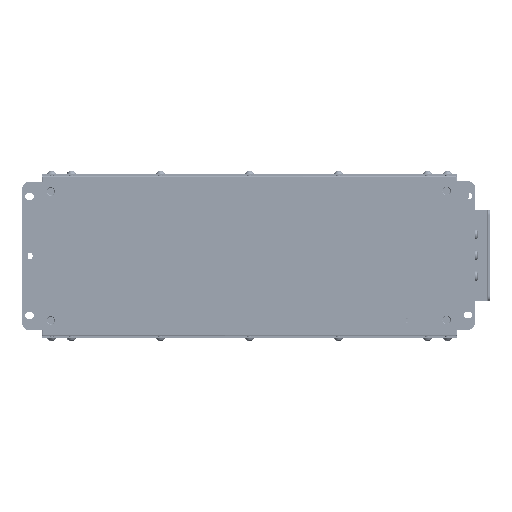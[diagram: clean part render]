
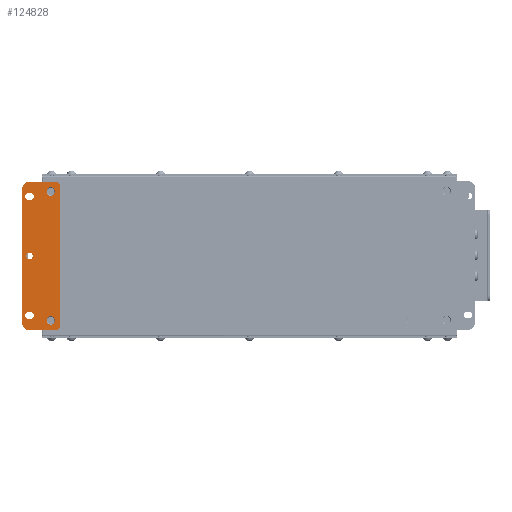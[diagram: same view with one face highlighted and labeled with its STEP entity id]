
A CAD part, front view. The second image highlights one B-rep face of the part: STEP entity #124828.
In plain terms, the highlighted planar face has unit normal (0, -1, 0).
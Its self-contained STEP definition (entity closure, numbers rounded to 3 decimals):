
#4513=FACE_BOUND('',#40737,.T.);
#4514=FACE_BOUND('',#40738,.T.);
#4515=FACE_BOUND('',#40739,.T.);
#4516=FACE_BOUND('',#40740,.T.);
#4517=FACE_BOUND('',#40741,.T.);
#5615=PLANE('',#132094);
#9912=LINE('',#174143,#21327);
#9913=LINE('',#174147,#21328);
#9914=LINE('',#174151,#21329);
#9915=LINE('',#174154,#21330);
#9916=LINE('',#174161,#21331);
#9917=LINE('',#174165,#21332);
#9918=LINE('',#174169,#21333);
#9919=LINE('',#174173,#21334);
#21327=VECTOR('',#142916,10.);
#21328=VECTOR('',#142919,10.);
#21329=VECTOR('',#142922,10.);
#21330=VECTOR('',#142925,10.);
#21331=VECTOR('',#142930,10.);
#21332=VECTOR('',#142933,10.);
#21333=VECTOR('',#142936,10.);
#21334=VECTOR('',#142939,10.);
#33920=FACE_OUTER_BOUND('',#40736,.T.);
#40736=EDGE_LOOP('',(#83385,#83386,#83387,#83388,#83389,#83390,#83391,#83392));
#40737=EDGE_LOOP('',(#83393));
#40738=EDGE_LOOP('',(#83394));
#40739=EDGE_LOOP('',(#83395,#83396,#83397,#83398));
#40740=EDGE_LOOP('',(#83399,#83400,#83401,#83402));
#40741=EDGE_LOOP('',(#83403));
#48525=CIRCLE('',#132093,4.25);
#48526=CIRCLE('',#132095,8.);
#48527=CIRCLE('',#132096,8.);
#48528=CIRCLE('',#132097,4.);
#48529=CIRCLE('',#132098,4.);
#48530=CIRCLE('',#132099,4.25);
#48531=CIRCLE('',#132100,3.3);
#48532=CIRCLE('',#132101,3.3);
#48533=CIRCLE('',#132102,3.3);
#48534=CIRCLE('',#132103,3.3);
#48535=CIRCLE('',#132104,3.3);
#52396=VERTEX_POINT('',#174135);
#52397=VERTEX_POINT('',#174139);
#52398=VERTEX_POINT('',#174140);
#52399=VERTEX_POINT('',#174142);
#52400=VERTEX_POINT('',#174144);
#52401=VERTEX_POINT('',#174146);
#52402=VERTEX_POINT('',#174148);
#52403=VERTEX_POINT('',#174150);
#52404=VERTEX_POINT('',#174152);
#52405=VERTEX_POINT('',#174155);
#52406=VERTEX_POINT('',#174157);
#52407=VERTEX_POINT('',#174159);
#52408=VERTEX_POINT('',#174160);
#52409=VERTEX_POINT('',#174162);
#52410=VERTEX_POINT('',#174164);
#52411=VERTEX_POINT('',#174167);
#52412=VERTEX_POINT('',#174168);
#52413=VERTEX_POINT('',#174170);
#52414=VERTEX_POINT('',#174172);
#64447=EDGE_CURVE('',#52396,#52396,#48525,.T.);
#64449=EDGE_CURVE('',#52397,#52398,#48526,.T.);
#64450=EDGE_CURVE('',#52398,#52399,#9912,.T.);
#64451=EDGE_CURVE('',#52399,#52400,#48527,.T.);
#64452=EDGE_CURVE('',#52400,#52401,#9913,.T.);
#64453=EDGE_CURVE('',#52401,#52402,#48528,.T.);
#64454=EDGE_CURVE('',#52402,#52403,#9914,.T.);
#64455=EDGE_CURVE('',#52403,#52404,#48529,.T.);
#64456=EDGE_CURVE('',#52404,#52397,#9915,.T.);
#64457=EDGE_CURVE('',#52405,#52405,#48530,.T.);
#64458=EDGE_CURVE('',#52406,#52406,#48531,.T.);
#64459=EDGE_CURVE('',#52407,#52408,#9916,.T.);
#64460=EDGE_CURVE('',#52408,#52409,#48532,.T.);
#64461=EDGE_CURVE('',#52409,#52410,#9917,.T.);
#64462=EDGE_CURVE('',#52410,#52407,#48533,.T.);
#64463=EDGE_CURVE('',#52411,#52412,#9918,.T.);
#64464=EDGE_CURVE('',#52412,#52413,#48534,.T.);
#64465=EDGE_CURVE('',#52413,#52414,#9919,.T.);
#64466=EDGE_CURVE('',#52414,#52411,#48535,.T.);
#83385=ORIENTED_EDGE('',*,*,#64449,.T.);
#83386=ORIENTED_EDGE('',*,*,#64450,.T.);
#83387=ORIENTED_EDGE('',*,*,#64451,.T.);
#83388=ORIENTED_EDGE('',*,*,#64452,.T.);
#83389=ORIENTED_EDGE('',*,*,#64453,.T.);
#83390=ORIENTED_EDGE('',*,*,#64454,.T.);
#83391=ORIENTED_EDGE('',*,*,#64455,.T.);
#83392=ORIENTED_EDGE('',*,*,#64456,.T.);
#83393=ORIENTED_EDGE('',*,*,#64457,.F.);
#83394=ORIENTED_EDGE('',*,*,#64458,.T.);
#83395=ORIENTED_EDGE('',*,*,#64459,.T.);
#83396=ORIENTED_EDGE('',*,*,#64460,.T.);
#83397=ORIENTED_EDGE('',*,*,#64461,.T.);
#83398=ORIENTED_EDGE('',*,*,#64462,.T.);
#83399=ORIENTED_EDGE('',*,*,#64463,.T.);
#83400=ORIENTED_EDGE('',*,*,#64464,.T.);
#83401=ORIENTED_EDGE('',*,*,#64465,.T.);
#83402=ORIENTED_EDGE('',*,*,#64466,.T.);
#83403=ORIENTED_EDGE('',*,*,#64447,.F.);
#124828=ADVANCED_FACE('',(#33920,#4513,#4514,#4515,#4516,#4517),#5615,.T.);
#132093=AXIS2_PLACEMENT_3D('',#174136,#142909,#142910);
#132094=AXIS2_PLACEMENT_3D('',#174138,#142912,#142913);
#132095=AXIS2_PLACEMENT_3D('',#174141,#142914,#142915);
#132096=AXIS2_PLACEMENT_3D('',#174145,#142917,#142918);
#132097=AXIS2_PLACEMENT_3D('',#174149,#142920,#142921);
#132098=AXIS2_PLACEMENT_3D('',#174153,#142923,#142924);
#132099=AXIS2_PLACEMENT_3D('',#174156,#142926,#142927);
#132100=AXIS2_PLACEMENT_3D('',#174158,#142928,#142929);
#132101=AXIS2_PLACEMENT_3D('',#174163,#142931,#142932);
#132102=AXIS2_PLACEMENT_3D('',#174166,#142934,#142935);
#132103=AXIS2_PLACEMENT_3D('',#174171,#142937,#142938);
#132104=AXIS2_PLACEMENT_3D('',#174174,#142940,#142941);
#142909=DIRECTION('center_axis',(0.,-1.,0.));
#142910=DIRECTION('ref_axis',(-1.,0.,0.));
#142912=DIRECTION('center_axis',(0.,-1.,0.));
#142913=DIRECTION('ref_axis',(0.,0.,
1.));
#142914=DIRECTION('center_axis',(0.,-1.,0.));
#142915=DIRECTION('ref_axis',(0.,0.,
1.));
#142916=DIRECTION('',(0.,0.,-1.));
#142917=DIRECTION('center_axis',(0.,-1.,0.));
#142918=DIRECTION('ref_axis',(-1.,0.,0.));
#142919=DIRECTION('',(1.,0.,0.));
#142920=DIRECTION('center_axis',(0.,-1.,0.));
#142921=DIRECTION('ref_axis',(0.,0.,
-1.));
#142922=DIRECTION('',(0.,0.,1.));
#142923=DIRECTION('center_axis',(0.,-1.,0.));
#142924=DIRECTION('ref_axis',(1.,0.,0.));
#142925=DIRECTION('',(-1.,0.,0.));
#142926=DIRECTION('center_axis',(0.,-1.,0.));
#142927=DIRECTION('ref_axis',(-1.,0.,0.));
#142928=DIRECTION('center_axis',(0.,1.,0.));
#142929=DIRECTION('ref_axis',(-1.,0.,0.));
#142930=DIRECTION('',(1.,0.,0.));
#142931=DIRECTION('center_axis',(0.,1.,0.));
#142932=DIRECTION('ref_axis',(0.,0.,
1.));
#142933=DIRECTION('',(-1.,0.,0.));
#142934=DIRECTION('center_axis',(0.,1.,0.));
#142935=DIRECTION('ref_axis',(0.,0.,
-1.));
#142936=DIRECTION('',(1.,0.,0.));
#142937=DIRECTION('center_axis',(0.,1.,0.));
#142938=DIRECTION('ref_axis',(0.,0.,
1.));
#142939=DIRECTION('',(-1.,0.,0.));
#142940=DIRECTION('center_axis',(0.,1.,0.));
#142941=DIRECTION('ref_axis',(0.,0.,
-1.));
#174135=CARTESIAN_POINT('',(-84.955,251.898,-479.255));
#174136=CARTESIAN_POINT('Origin',(-89.205,251.898,-479.255));
#174138=CARTESIAN_POINT('Origin',(-99.205,251.898,-544.255));
#174139=CARTESIAN_POINT('',(-110.205,251.898,-469.255));
#174140=CARTESIAN_POINT('',(-118.205,251.898,-477.255));
#174141=CARTESIAN_POINT('Origin',(-110.205,251.898,-477.255));
#174142=CARTESIAN_POINT('',(-118.205,251.898,-611.255));
#174143=CARTESIAN_POINT('',(-118.205,251.898,-477.255));
#174144=CARTESIAN_POINT('',(-110.205,251.898,-619.255));
#174145=CARTESIAN_POINT('Origin',(-110.205,251.898,-611.255));
#174146=CARTESIAN_POINT('',(-84.205,251.898,-619.255));
#174147=CARTESIAN_POINT('',(-110.205,251.898,-619.255));
#174148=CARTESIAN_POINT('',(-80.205,251.898,-615.255));
#174149=CARTESIAN_POINT('Origin',(-84.205,251.898,-615.255));
#174150=CARTESIAN_POINT('',(-80.205,251.898,-473.255));
#174151=CARTESIAN_POINT('',(-80.205,251.898,-615.255));
#174152=CARTESIAN_POINT('',(-84.205,251.898,-469.255));
#174153=CARTESIAN_POINT('Origin',(-84.205,251.898,-473.255));
#174154=CARTESIAN_POINT('',(-84.205,251.898,-469.255));
#174155=CARTESIAN_POINT('',(-84.955,251.898,-609.255));
#174156=CARTESIAN_POINT('Origin',(-89.205,251.898,-609.255));
#174157=CARTESIAN_POINT('',(-107.405,251.898,-544.255));
#174158=CARTESIAN_POINT('Origin',(-110.705,251.898,-544.255));
#174159=CARTESIAN_POINT('',(-111.705,251.898,-480.955));
#174160=CARTESIAN_POINT('',(-109.705,251.898,-480.955));
#174161=CARTESIAN_POINT('',(-111.705,251.898,-480.955));
#174162=CARTESIAN_POINT('',(-109.705,251.898,-487.555));
#174163=CARTESIAN_POINT('Origin',(-109.705,251.898,-484.255));
#174164=CARTESIAN_POINT('',(-111.705,251.898,-487.555));
#174165=CARTESIAN_POINT('',(-109.705,251.898,-487.555));
#174166=CARTESIAN_POINT('Origin',(-111.705,251.898,-484.255));
#174167=CARTESIAN_POINT('',(-111.705,251.898,-600.955));
#174168=CARTESIAN_POINT('',(-109.705,251.898,-600.955));
#174169=CARTESIAN_POINT('',(-111.705,251.898,-600.955));
#174170=CARTESIAN_POINT('',(-109.705,251.898,-607.555));
#174171=CARTESIAN_POINT('Origin',(-109.705,251.898,-604.255));
#174172=CARTESIAN_POINT('',(-111.705,251.898,-607.555));
#174173=CARTESIAN_POINT('',(-109.705,251.898,-607.555));
#174174=CARTESIAN_POINT('Origin',(-111.705,251.898,-604.255));
